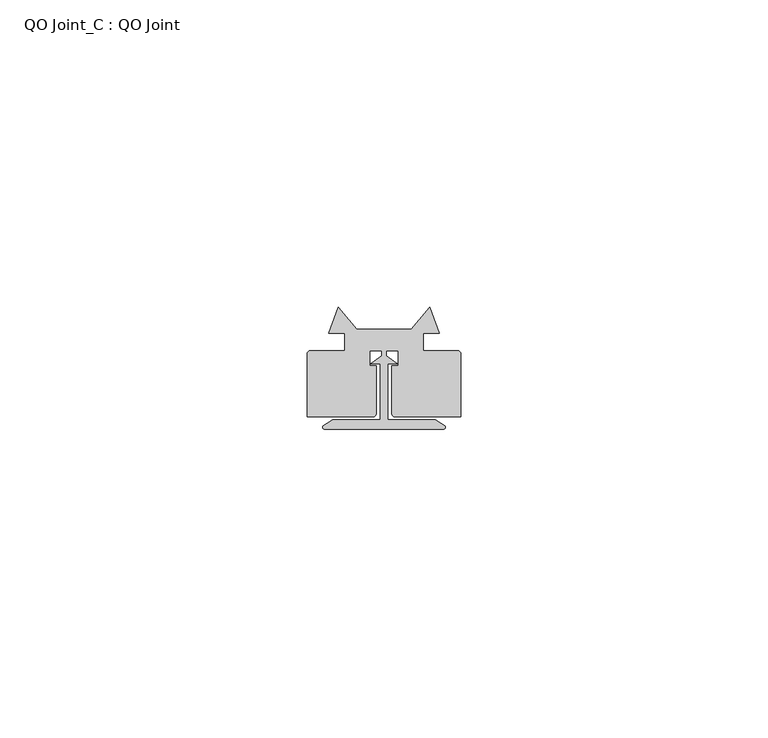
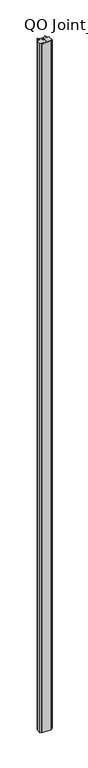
"""IFC4 building model written with IfcOpenShell, lengths in millimetres: column geometry, QO Joint_C : QO Joint."""

from ifc_helpers import new_model, si_unit, point, frame, frame_2d, origin, place, context, project, spatial, polyline, circle_curve, trimmed, segment, composite_curve, outline, extrude, source, transform, mapped, element, save


def qo_joint_c_qo_joint_f93855ad(model_context):
    return source(origin(), model_context, "Body", "SweptSolid", [
        extrude(outline(composite_curve([segment(polyline([(-0.65, 34.6160805), (-2.1650257, 34.6160805), (-0.3521968, 35.9759407), (-0.3521968, 36.7759407), (-2.3537221, 36.7759407), (-2.3537221, 34.317153), (-1.2854895, 34.317153), (-1.2854895, 26.5392087)]), True, "CONTINUOUS"), segment(trimmed(circle_curve(frame_2d((-1.7848662, 26.5150144)), 0.4999625), [point((-1.2854895, 26.5392087))], [point((-1.7848662, 26.0150519))], False, "CARTESIAN"), True, "CONTINUOUS"), segment(polyline([(-1.7848662, 26.0150519), (-12.4986723, 26.0150519), (-12.4986723, 36.190378)]), True, "CONTINUOUS"), segment(trimmed(circle_curve(frame_2d((-11.8986723, 36.190378)), 0.6), [point((-12.4986723, 36.190378))], [point((-11.8986723, 36.790378))], False, "CARTESIAN"), True, "CONTINUOUS"), segment(polyline([(-11.8986723, 36.790378), (-6.3601486, 36.790378), (-6.3601486, 39.6058207), (-8.9587496, 39.6058207), (-7.4200002, 43.8493822), (-4.3967779, 40.3004498), (4.3967779, 40.3004498), (7.4200002, 43.8493822), (8.9587496, 39.6058207), (6.3601486, 39.6058207), (6.3601486, 36.790378), (11.8986723, 36.790378)]), True, "CONTINUOUS"), segment(trimmed(circle_curve(frame_2d((11.8986723, 36.190378)), 0.6), [point((11.8986723, 36.790378))], [point((12.4986723, 36.190378))], False, "CARTESIAN"), True, "CONTINUOUS"), segment(polyline([(12.4986723, 36.190378), (12.4986723, 26.0150519), (1.7848662, 26.0150519)]), True, "CONTINUOUS"), segment(trimmed(circle_curve(frame_2d((1.7848662, 26.5150144)), 0.4999625), [point((1.7848662, 26.0150519))], [point((1.2854895, 26.5392087))], False, "CARTESIAN"), True, "CONTINUOUS"), segment(polyline([(1.2854895, 26.5392087), (1.2854895, 34.317153), (2.3537221, 34.317153), (2.3537221, 36.7759407), (0.3521968, 36.7759407), (0.3521968, 35.9759407), (2.1650257, 34.6160805), (0.65, 34.6160805), (0.65, 25.5027713), (8.3181137, 25.5027713), (9.8500891, 24.5783623)]), True, "CONTINUOUS"), segment(trimmed(circle_curve(frame_2d((9.6899304, 24.3129396)), 0.31), [point((9.8500891, 24.5783623))], [point((9.6899304, 24.0029396))], False, "CARTESIAN"), True, "CONTINUOUS"), segment(polyline([(9.6899304, 24.0029396), (-9.6900925, 24.0029396)]), True, "CONTINUOUS"), segment(trimmed(circle_curve(frame_2d((-9.6900925, 24.3129396)), 0.31), [point((-9.6900925, 24.0029396))], [point((-9.8502511, 24.5783623))], False, "CARTESIAN"), True, "CONTINUOUS"), segment(polyline([(-9.8502511, 24.5783623), (-8.3182758, 25.5027713), (-0.65, 25.5027713), (-0.65, 34.6160805)]), True, "CONTINUOUS")], self_intersect=False)), frame((0.0, 0.0, 4660.0), z_axis=(0.0, 0.0, 1.0), x_axis=(1.0, 0.0, 0.0)), (0.0, 0.0, 1.0), 1490.0),
    ])


if __name__ == "__main__":
    model = new_model("IFC4")
    model_context = context("Model", 3, world=origin())
    ifc_project = project(units=[si_unit("LENGTHUNIT", "METRE", prefix="MILLI")], contexts=[model_context])
    site = spatial("IfcSite", under=ifc_project)
    building = spatial("IfcBuilding", under=site)
    placement = place(None, origin())
    qo_joint_c_qo_joint_shape = qo_joint_c_qo_joint_f93855ad(model_context)
    element("IfcColumn", 1, ObjectType="QO Joint_C : QO Joint", at=placement, inside=building, context=model_context, shape_type="MappedRepresentation", body=[
        mapped(qo_joint_c_qo_joint_shape, transform((0.0, 0.0, 0.0), x_axis=(1.0, 0.0, 0.0), y_axis=(0.0, 1.0, 0.0), z_axis=(0.0, 0.0, 1.0))),
    ])
    save(model, "model.ifc")
